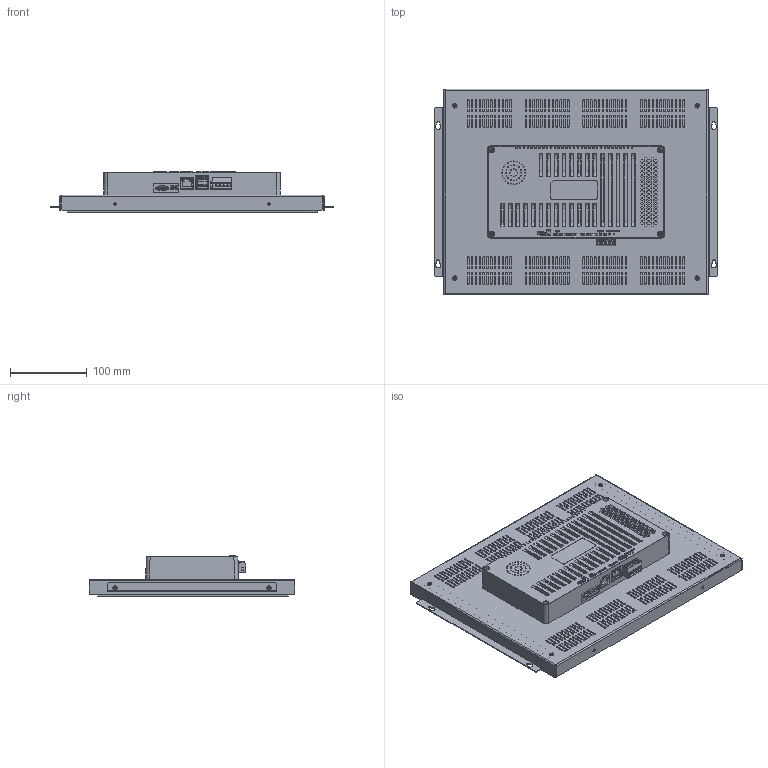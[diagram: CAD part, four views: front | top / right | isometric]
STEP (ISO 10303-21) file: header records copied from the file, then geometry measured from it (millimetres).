
FILE_DESCRIPTION (( 'STEP AP214' ), '1' );
FILE_NAME ('CPi-F150PR_ASM.STEP', '2024-01-03T07:00:26', ( '' ), ( '' ), 'SwSTEP 2.0', 'SolidWorks 2020', '' );
FILE_SCHEMA (( 'AUTOMOTIVE_DESIGN' ));
Length unit declared in the file: millimetre
Products named in the file (1): CPi-F150PR_ASM
Bounding box: 367 x 267 x 52.3 mm (x, y, z)
Volume: 2016535.3 mm3; surface area: 680210 mm2
Topology: 6 solids, 18 shells, 4331 faces, 12008 edges, 7847 vertices
Faces by surface type: plane 2624, cylinder 949, bspline 509, cone 189, torus 58, sphere 2
Full cylindrical faces by diameter (mm): 0.672 x1, 0.868 x1, 1.922 x1, 2.5 x10, 2.9 x8, 3 x20, 4 x5, 5 x16, 5.4 x4, 6 x4
Entity records: 154460 total; most frequent: CARTESIAN_POINT 47595, ORIENTED_EDGE 23424, DIRECTION 19523, EDGE_CURVE 11712, VECTOR 8243, LINE 8243, VERTEX_POINT 7731, AXIS2_PLACEMENT_3D 5640
